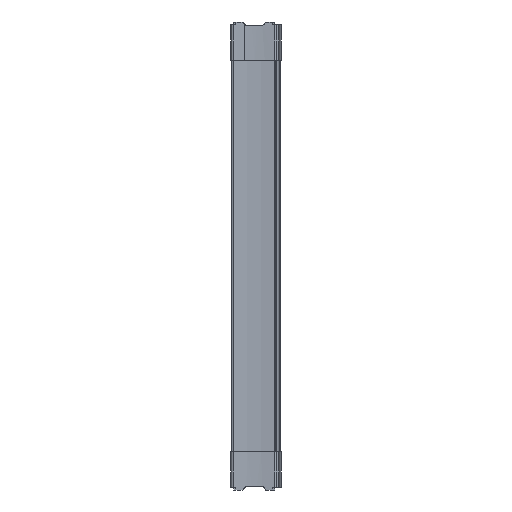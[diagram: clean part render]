
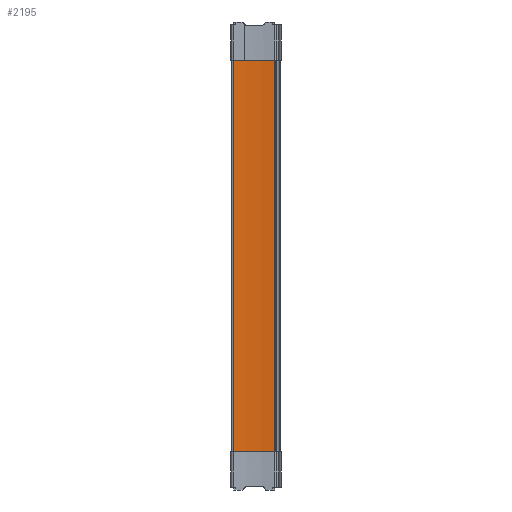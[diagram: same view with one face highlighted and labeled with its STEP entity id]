
A CAD part, left-side view. The second image highlights one B-rep face of the part: STEP entity #2195.
In plain terms, the highlighted cylindrical face has radius 250 mm (diameter 500 mm), a partial arc.
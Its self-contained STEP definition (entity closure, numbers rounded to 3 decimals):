
#161 = ORIENTED_EDGE ( 'NONE', *, *, #3630, .F. ) ;
#162 = ORIENTED_EDGE ( 'NONE', *, *, #3599, .F. ) ;
#163 = ORIENTED_EDGE ( 'NONE', *, *, #3568, .F. ) ;
#164 = ORIENTED_EDGE ( 'NONE', *, *, #3021, .T. ) ;
#714 = EDGE_LOOP ( 'NONE', ( #161, #162, #163, #164 ) ) ;
#897 = CARTESIAN_POINT ( 'NONE',  ( -5.747, 63.571, 260.3 ) ) ;
#956 = DIRECTION ( 'NONE',  ( -1., 0., 0. ) ) ;
#1094 = CARTESIAN_POINT ( 'NONE',  ( -8.643, 8.331, 260.3 ) ) ;
#1128 = CARTESIAN_POINT ( 'NONE',  ( -8.643, 8.331, -260.3 ) ) ;
#1147 = VERTEX_POINT ( 'NONE', #1094 ) ;
#1200 = VERTEX_POINT ( 'NONE', #1128 ) ;
#1215 = VERTEX_POINT ( 'NONE', #897 ) ;
#1276 = CARTESIAN_POINT ( 'NONE',  ( -5.747, 63.571, -260.3 ) ) ;
#1282 = DIRECTION ( 'NONE',  ( 0., 0., -1. ) ) ;
#1290 = VERTEX_POINT ( 'NONE', #1276 ) ;
#1371 = CARTESIAN_POINT ( 'NONE',  ( -255.319, 48.963, 266.3 ) ) ;
#1709 = CARTESIAN_POINT ( 'NONE',  ( -5.747, 63.571, 266.3 ) ) ;
#1712 = DIRECTION ( 'NONE',  ( 0., 0., -1. ) ) ;
#2195 = ADVANCED_FACE ( 'NONE', ( #3911 ), #4305, .F. ) ;
#2315 = CARTESIAN_POINT ( 'NONE',  ( -255.319, 48.963, 260.3 ) ) ;
#2316 = DIRECTION ( 'NONE',  ( 0., 0., -1. ) ) ;
#2317 = DIRECTION ( 'NONE',  ( 1., 0., 0. ) ) ;
#2409 = CARTESIAN_POINT ( 'NONE',  ( -8.643, 8.331, 266.3 ) ) ;
#2410 = DIRECTION ( 'NONE',  ( 0., 0., -1. ) ) ;
#2475 = CARTESIAN_POINT ( 'NONE',  ( -255.319, 48.963, -260.3 ) ) ;
#2482 = DIRECTION ( 'NONE',  ( 0., 0., 1. ) ) ;
#2483 = DIRECTION ( 'NONE',  ( -1., 0., 0. ) ) ;
#2887 = AXIS2_PLACEMENT_3D ( 'NONE', #2315, #2316, #2317 ) ;
#2953 = AXIS2_PLACEMENT_3D ( 'NONE', #2475, #2482, #2483 ) ;
#3021 = EDGE_CURVE ( 'NONE', #1215, #1290, #4162, .T. ) ;
#3321 = CIRCLE ( 'NONE', #2953, 250. ) ;
#3390 = VECTOR ( 'NONE', #2410, 1000. ) ;
#3396 = LINE ( 'NONE', #2409, #3390 ) ;
#3428 = CIRCLE ( 'NONE', #2887, 250. ) ;
#3568 = EDGE_CURVE ( 'NONE', #1215, #1147, #3428, .T. ) ;
#3599 = EDGE_CURVE ( 'NONE', #1147, #1200, #3396, .T. ) ;
#3630 = EDGE_CURVE ( 'NONE', #1200, #1290, #3321, .T. ) ;
#3747 = AXIS2_PLACEMENT_3D ( 'NONE', #1371, #1282, #956 ) ;
#3911 = FACE_OUTER_BOUND ( 'NONE', #714, .T. ) ;
#4155 = VECTOR ( 'NONE', #1712, 1000. ) ;
#4162 = LINE ( 'NONE', #1709, #4155 ) ;
#4305 = CYLINDRICAL_SURFACE ( 'NONE', #3747, 250. ) ;
